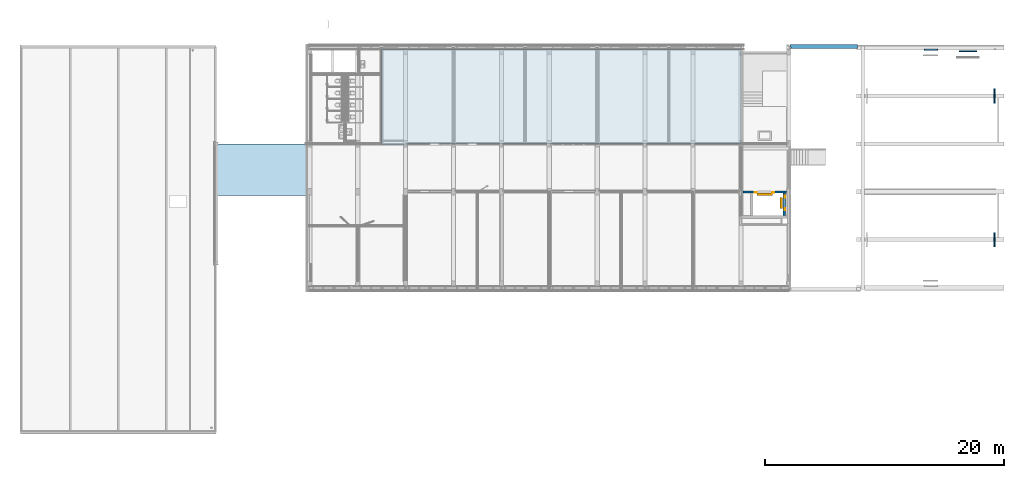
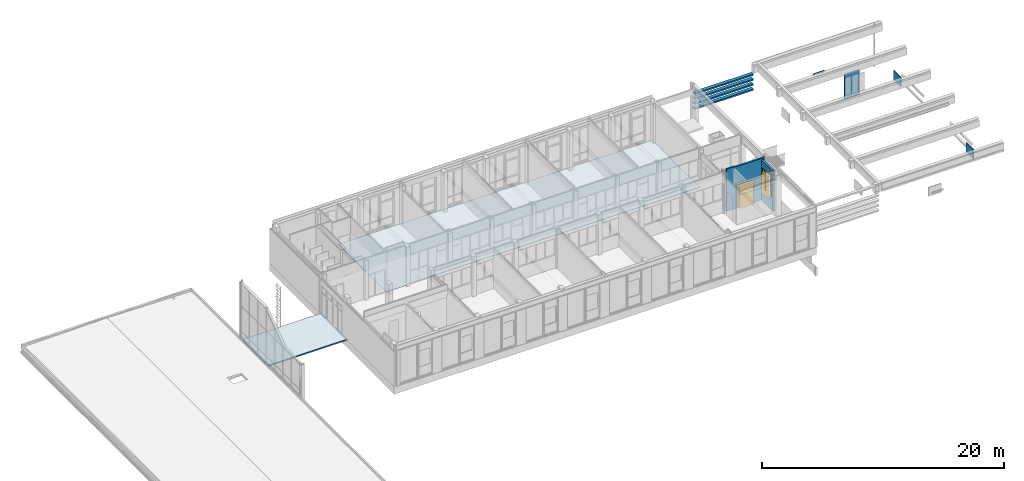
# One storey, part 1 of 54: 8 beams, 4 doors, 2 slabs, 2 walls, 4 openings.
"""IFC2X3 building model written with IfcOpenShell, lengths in millimetres."""

from ifc_helpers import new_model, entity, si_unit, converted_unit, derived_unit, money_unit, direction, frame, origin_with_axes, place, context, subcontext, project, spatial, faceted_brep, source, transform, mapped, material, type_object, type_shapes, element, fill, save


model = new_model("IFC2X3")

# Units and contexts
model_context = context("Model", 3, precision=0.01, world=origin_with_axes(), true_north=direction((0.0, 1.0)))
body_context = subcontext(model_context, "Body", "Model", "MODEL_VIEW")
ifc_project = project(units=[si_unit("LENGTHUNIT", "METRE", prefix="MILLI"), si_unit("AREAUNIT", "SQUARE_METRE"), si_unit("VOLUMEUNIT", "CUBIC_METRE"), converted_unit("PLANEANGLEUNIT", "DEGREE", entity("IfcPlaneAngleMeasure", 0.0174532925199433), si_unit("PLANEANGLEUNIT", "RADIAN"), dimensions=[0, 0, 0, 0, 0, 0, 0]), money_unit("EUR"), converted_unit("TIMEUNIT", "Year", entity("IfcTimeMeasure", 31557600.0), si_unit("TIMEUNIT", "SECOND"), dimensions=[0, 0, 1, 0, 0, 0, 0]), si_unit("MASSUNIT", "GRAM", prefix="KILO"), si_unit("THERMODYNAMICTEMPERATUREUNIT", "DEGREE_CELSIUS"), si_unit("LUMINOUSINTENSITYUNIT", "LUMEN"), si_unit("ENERGYUNIT", "JOULE", prefix="MEGA"), derived_unit("THERMALCONDUCTANCEUNIT", [(si_unit("POWERUNIT", "WATT"), 1), (si_unit("LENGTHUNIT", "METRE"), -1), (si_unit("THERMODYNAMICTEMPERATUREUNIT", "KELVIN"), -1)]), derived_unit("SPECIFICHEATCAPACITYUNIT", [(si_unit("ENERGYUNIT", "JOULE"), 1), (si_unit("MASSUNIT", "GRAM", prefix="KILO"), -1), (si_unit("THERMODYNAMICTEMPERATUREUNIT", "KELVIN"), -1)]), derived_unit("MASSDENSITYUNIT", [(si_unit("MASSUNIT", "GRAM", prefix="KILO"), 1), (si_unit("VOLUMEUNIT", "CUBIC_METRE"), -1)])], contexts=[model_context])

# Site, building, storey
site_placement = place(None, origin_with_axes())
site = spatial("IfcSite", under=ifc_project, at=site_placement, Name="<site naam>", CompositionType="ELEMENT")
building_placement = place(site_placement, origin_with_axes())
building = spatial("IfcBuilding", under=site, at=building_placement, Name="<Naam gebouw>", CompositionType="ELEMENT")
storey_placement = place(building_placement, frame((0.0, 0.0, 8500.0), z_axis=(0.0, 0.0, 1.0), x_axis=(1.0, 0.0, 0.0)))
storey = spatial("IfcBuildingStorey", under=building, at=storey_placement, Name="02 2e verdieping", CompositionType="ELEMENT", Elevation=8500.0)

# Beams
ifc_material_1 = material(Name="beton")
beam_type_1 = type_object("IfcBeamType", Name="beton 335 x 150", PredefinedType="BEAM")
for number, where, z_axis, x_axis, name in (
    (1, (52105.00000000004, 20324.99999758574, 2562.5), (0.0, 0.0, 1.0), (0.0, -1.0, 0.0), "41_Balk_beton"),
    (2, (52105.00000000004, 20324.99999758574, 3062.5), (0.0, 0.0, 1.0), (0.0, -1.0, 0.0), "41_Balk_beton"),
    (3, (52105.00000000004, 20324.99999758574, 2062.5), (0.0, 0.0, 1.0), (0.0, -1.0, 0.0), "41_Balk_beton"),
    (4, (52105.00000000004, 20324.99999758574, 1562.5), (0.0, 0.0, 1.0), (0.0, -1.0, 0.0), "41_Balk_beton"),
):
    element("IfcBeam", number, at=place(storey_placement, frame(where, z_axis=z_axis, x_axis=x_axis)), inside=storey, type_object=beam_type_1, material=ifc_material_1, Name=name, ObjectType="BEAM", context=body_context, shape_type="Brep", body=[
        faceted_brep([(217.325348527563, 70.00000000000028, 150.0000000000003), (325.0000821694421, 70.00000000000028, 150.0000000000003), (325.0000821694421, 0.0, 150.0000000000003), (335.0000000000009, 0.0, 150.0000000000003), (335.0000000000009, 5640.499069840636, 150.0000000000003), (0.0, 5640.499069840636, 150.0000000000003), (0.0, 0.0, 150.0000000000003), (217.325348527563, 0.0, 150.0000000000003), (325.0000821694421, 70.00000000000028, 0.0), (217.325348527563, 70.00000000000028, 0.0), (325.0000821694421, 0.0, 0.0), (335.0000000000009, 0.0, 0.0), (335.0000000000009, 5640.499069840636, 0.0), (0.0, 5640.499069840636, 0.0), (0.0, 0.0, 0.0), (217.325348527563, 0.0, 0.0)], [[[0, 1, 2, 3, 4, 5, 6, 7]], [[8, 1, 0, 9]], [[10, 2, 1, 8]], [[3, 2, 10, 11]], [[3, 11, 12, 4]], [[4, 12, 13, 5]], [[14, 6, 5, 13]], [[14, 15, 7, 6]], [[9, 0, 7, 15]], [[8, 9, 15, 14, 13, 12, 11, 10]]]),
    ])
ifc_material_2 = material(Name="ALG - ALGEMEEN")
beam_type_2 = type_object("IfcBeamType", Name="ALG - ALGEMEEN 100 x 900", PredefinedType="BEAM")
for number, where, z_axis, x_axis, name in (
    (5, (69225.00005570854, 15399.99999999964, 1649.99978842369), (0.0, 0.0, 1.0), (1.0, 0.0, 0.0), "77_Balk_ALG"),
    (6, (69225.00005365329, 3400.01755167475, 1649.999788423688), (0.0, 0.0, 1.0), (1.0, 0.0, 0.0), "77_Balk_ALG"),
):
    element("IfcBeam", number, at=place(storey_placement, frame(where, z_axis=z_axis, x_axis=x_axis)), inside=storey, type_object=beam_type_2, material=ifc_material_2, Name=name, ObjectType="BEAM", context=body_context, shape_type="Brep", body=[
        faceted_brep([(0.0, 0.0, 0.0), (0.0, 1200.000000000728, 0.0), (-100.0000020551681, 1200.000000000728, 0.0), (-100.0000020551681, 0.0, 0.0), (0.0, 0.0, -899.9995791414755), (0.0, 1200.000000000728, -899.9995791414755), (-100.0000020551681, 1200.000000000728, -899.9995791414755), (-100.0000020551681, 0.0, -899.9995791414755)], [[[0, 1, 2, 3]], [[4, 5, 1, 0]], [[2, 1, 5, 6]], [[3, 2, 6, 7]], [[4, 0, 3, 7]], [[7, 6, 5, 4]]]),
    ])
ifc_material_3 = material(Name="staal")
beam_type_3 = type_object("IfcBeamType", Name="Profiel UPN algemeen 70 x 180", PredefinedType="BEAM")
beam_1_placement = place(storey_placement, frame((63313.25000000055, 19829.99963413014, 1351.998526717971), z_axis=(0.0, 0.0, 1.0), x_axis=(0.0, -1.0, 0.0)))
element("IfcBeam", 7, at=beam_1_placement, inside=storey, type_object=beam_type_3, material=ifc_material_3, Name="28_Balk_Profiel", ObjectType="BEAM", context=body_context, shape_type="Brep", body=[
    faceted_brep([(-7.999999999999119, 0.0, -10.99999999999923), (-70.00032444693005, 0.0, -10.99999999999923), (-70.00032444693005, 1113.499999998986, -10.99999999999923), (-7.999999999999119, 1113.499999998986, -10.99999999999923), (0.0, 0.0, 0.0), (-70.00040555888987, 0.0, 0.0), (-7.999999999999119, 0.0, -169.0000143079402), (-70.00032444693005, 0.0, -169.0000143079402), (-70.00040555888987, 0.0, -180.0000145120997), (0.0, 0.0, -180.0000145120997), (-70.00040555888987, 1113.499999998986, 0.0), (-7.999999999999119, 1113.499999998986, -169.0000143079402), (0.0, 1113.499999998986, 0.0), (0.0, 1113.499999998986, -180.0000145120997), (-70.00040555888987, 1113.499999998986, -180.0000145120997), (-70.00032444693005, 1113.499999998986, -169.0000143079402)], [[[0, 1, 2, 3]], [[4, 5, 1, 0, 6, 7, 8, 9]], [[1, 5, 10, 2]], [[11, 3, 2, 10, 12, 13, 14, 15]], [[6, 0, 3, 11]], [[5, 4, 12, 10]], [[7, 6, 11, 15]], [[8, 7, 15, 14]], [[9, 8, 14, 13]], [[4, 9, 13, 12]]]),
])
beam_type_4 = type_object("IfcBeamType", Name="ALG - ALGEMEEN 100 x 2518", PredefinedType="BEAM")
beam_2_placement = place(storey_placement, frame((66241.21701635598, 19729.99223175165, 362.5000000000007), z_axis=(0.0, 0.0, 1.0), x_axis=(0.0, -1.0, 0.0)))
element("IfcBeam", 8, at=beam_2_placement, inside=storey, type_object=beam_type_4, material=ifc_material_2, Name="77_Balk_ALG", ObjectType="BEAM", context=body_context, shape_type="Brep", body=[
    faceted_brep([(50.00000102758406, 1449.999999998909, 0.0), (50.00000102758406, 1449.999999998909, -2514.500000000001), (-50.00000102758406, 1449.999999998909, -2514.500000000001), (-50.00000102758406, 1449.999999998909, 0.0), (50.00000102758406, 0.0, 0.0), (50.00000102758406, 0.0, -2514.500000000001), (-50.00000102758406, 0.0, -2514.500000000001), (-50.00000102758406, 0.0, 0.0)], [[[0, 1, 2, 3]], [[4, 5, 1, 0]], [[5, 6, 2, 1]], [[3, 2, 6, 7]], [[7, 4, 0, 3]], [[7, 6, 5, 4]]]),
])

# Slabs
ifc_material_4 = material(Name="beton_gewapend_vloer C")
slab_type_1 = type_object("IfcSlabType", Name="beton_gewapend_vloer C  120", PredefinedType="NOTDEFINED")
slab_1_placement = place(storey_placement, frame((4270.04446815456, 7680.000000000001, -30.00000000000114), z_axis=(0.0, 0.0, 1.0), x_axis=(1.0, 0.0, 0.0)))
element("IfcSlab", 9, at=slab_1_placement, inside=storey, type_object=slab_type_1, material=ifc_material_4, Name="23_Vloer_beton_gewapend_vloer", PredefinedType="NOTDEFINED", context=body_context, shape_type="Brep", body=[
    faceted_brep([(0.0, 0.0, 0.0), (0.0, 0.0, -119.9999999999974), (7554.955531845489, 0.0, -119.9999999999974), (7554.955531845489, 0.0, 0.0), (0.0, 4320.000000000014, 0.0), (0.0, 4320.000000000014, -119.9999999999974), (7554.955531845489, 4320.000000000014, -119.9999999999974), (7554.955531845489, 4320.000000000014, 0.0)], [[[0, 1, 2, 3]], [[4, 5, 1, 0]], [[2, 1, 5, 6]], [[3, 2, 6, 7]], [[4, 0, 3, 7]], [[7, 6, 5, 4]]]),
])
ifc_material_5 = material(Name="Zwevende dekvloer")
slab_type_2 = type_object("IfcSlabType", Name="Zwevende dekvloer 30", PredefinedType="NOTDEFINED")
slab_2_placement = place(storey_placement, frame((18000.10069231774, 19925.00000000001, 0.0), z_axis=(0.0, 0.0, 1.0), x_axis=(1.0, 0.0, 0.0)))
element("IfcSlab", 10, at=slab_2_placement, inside=storey, type_object=slab_type_2, material=ifc_material_5, Name="23_Vloer_Zwevende", PredefinedType="NOTDEFINED", context=body_context, shape_type="Brep", body=[
    faceted_brep([(30014.97715142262, -7896.000000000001, -29.99999999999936), (30014.97715142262, -34.4999999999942, -29.99999999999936), (30014.97715142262, -34.4999999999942, 0.0), (30014.97715142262, -7896.000000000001, 0.0), (0.0, -7995.463496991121, -29.99999999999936), (0.0, -34.4999999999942, -29.99999999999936), (1999.899307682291, -7896.000000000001, -29.99999999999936), (1999.899307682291, -7995.463496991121, -29.99999999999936), (0.0, -34.4999999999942, 0.0), (0.0, -7995.463496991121, 0.0), (1999.899307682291, -7995.463496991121, 0.0), (1999.899307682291, -7896.000000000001, 0.0)], [[[0, 1, 2, 3]], [[4, 5, 1, 0, 6, 7]], [[5, 8, 2, 1]], [[3, 2, 8, 9, 10, 11]], [[3, 11, 6, 0]], [[9, 8, 5, 4]], [[11, 10, 7, 6]], [[10, 9, 4, 7]]]),
])

# Wall, openings, doors
ifc_material_6 = material(Name="kalkzandsteen")
wall_type_1 = type_object("IfcWallType", Name="kalkzandsteen 150", PredefinedType="NOTDEFINED")
wall_1_placement = place(storey_placement, frame((51825.00000000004, 7904.999998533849, 0.0), z_axis=(0.0, 0.0, 1.0), x_axis=(-1.0, 0.0, 0.0)))
wall_1 = element("IfcWall", 11, at=wall_1_placement, inside=storey, type_object=wall_type_1, material=ifc_material_6, Name="22_Binnenwand_kalkzandsteen", context=body_context, shape_type="Brep", body=[
    faceted_brep([(2824.999999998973, -150.0000000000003, 4270.0), (2824.999999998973, -150.0000000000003, 4199.999999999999), (10.9999999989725, -150.0000000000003, 4199.999999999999), (10.9999999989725, -150.0000000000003, 4270.0), (0.0, -150.0000000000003, 4270.0), (0.0, -150.0000000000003, 0.0), (3650.000000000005, -150.0000000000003, 0.0), (3650.000000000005, -150.0000000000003, 4270.0), (2824.999999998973, 0.0, 4199.999999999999), (2824.999999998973, 0.0, 4270.0), (10.9999999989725, 0.0, 4199.999999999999), (10.9999999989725, 0.0, 4270.0), (0.0, 0.0, 4270.0), (0.0, 0.0, 0.0), (3650.000000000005, 0.0, 0.0), (3650.000000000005, 0.0, 4270.0)], [[[0, 1, 2, 3, 4, 5, 6, 7]], [[8, 1, 0, 9]], [[10, 2, 1, 8]], [[10, 11, 3, 2]], [[4, 3, 11, 12]], [[4, 12, 13, 5]], [[5, 13, 14, 6]], [[7, 6, 14, 15]], [[15, 9, 0, 7]], [[10, 8, 9, 15, 14, 13, 12, 11]]]),
])
opening_1_placement = place(wall_1_placement, frame((1844.999999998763, 0.0, 0.0), z_axis=(0.0, 0.0, 1.0), x_axis=(1.0, 0.0, 0.0)))
opening_1 = element("IfcOpeningElement", 12, at=opening_1_placement, cuts=wall_1, Name="22_liftdeur_305", context=body_context, shape_type="Brep", body=[
    faceted_brep([(649.9999999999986, 1.000000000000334, 2100.0), (649.9999999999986, 1.000000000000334, 0.0), (-649.9999999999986, 1.000000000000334, 0.0), (-649.9999999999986, 1.000000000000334, 2100.0), (649.9999999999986, -150.9999999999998, 2100.0), (649.9999999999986, -150.9999999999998, 0.0), (-649.9999999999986, -150.9999999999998, 0.0), (-649.9999999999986, -150.9999999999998, 2100.0)], [[[0, 1, 2, 3]], [[4, 5, 1, 0]], [[5, 6, 2, 1]], [[6, 7, 3, 2]], [[7, 4, 0, 3]], [[6, 5, 4, 7]]]),
])
opening_2_placement = place(wall_1_placement, frame((1844.999999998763, 0.0, 0.0), z_axis=(0.0, 0.0, 1.0), x_axis=(1.0, 0.0, 0.0)))
opening_2 = element("IfcOpeningElement", 13, at=opening_2_placement, cuts=wall_1, Name="22__305", context=body_context, shape_type="Brep", body=[
    faceted_brep([(-799.9999999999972, -150.9999999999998, 2300.000000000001), (-799.9999999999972, -150.9999999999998, 0.0), (799.9999999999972, -150.9999999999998, 0.0), (799.9999999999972, -150.9999999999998, 2300.000000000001), (-799.9999999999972, 1.000000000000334, 2300.000000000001), (-799.9999999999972, 1.000000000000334, 0.0), (799.9999999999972, 1.000000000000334, 0.0), (799.9999999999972, 1.000000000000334, 2300.000000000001)], [[[0, 1, 2, 3]], [[4, 5, 1, 0]], [[5, 6, 2, 1]], [[6, 7, 3, 2]], [[7, 4, 0, 3]], [[6, 5, 4, 7]]]),
])
door_style_1 = type_object("IfcDoorStyle", Name="DS1 voor wand 27", ConstructionType="NOTDEFINED", OperationType="SLIDING_TO_LEFT", ParameterTakesPrecedence=False, Sizeable=False)
shared_shape_1 = source(origin_with_axes(), body_context, "Body", "Brep", [
    faceted_brep([(-650.0, 365.0, 0.0), (650.0, 365.0, 0.0), (650.0, 155.0, 0.0), (-650.0, 155.0, 0.0), (-650.0, 364.9999999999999, 2100.0), (650.0, 364.9999999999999, 2100.0), (650.0, 154.9999999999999, 2100.0), (-650.0, 154.9999999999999, 2100.0)], [[[0, 1, 2, 3]], [[0, 4, 5, 1]], [[1, 5, 6, 2]], [[3, 2, 6, 7]], [[4, 0, 3, 7]], [[5, 4, 7, 6]]]),
])
door_1_placement = place(opening_1_placement, frame((-649.9999999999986, 0.0, 0.0), z_axis=(0.0, 0.0, 1.0), x_axis=(1.0, 0.0, 0.0)))
door_1 = element("IfcDoor", 14, at=door_1_placement, inside=storey, type_object=door_style_1, Name="22_liftdeur_305", ObjectType="DOOR", OverallHeight=2100.0, OverallWidth=1300.0, context=body_context, shape_type="MappedRepresentation", body=[
    mapped(shared_shape_1, transform((649.9999999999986, -150.0000000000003, 0.0))),
])
fill(opening_1, door_1)
door_style_2 = type_object("IfcDoorStyle", Name="D1 27", ConstructionType="NOTDEFINED", OperationType="NOTDEFINED", ParameterTakesPrecedence=False, Sizeable=False)
shared_shape_2 = source(origin_with_axes(), body_context, "Body", "Brep", [
    faceted_brep([(799.9999999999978, 0.0, 0.0), (799.9999999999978, -60.0, 0.0), (649.9999999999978, -60.0, 0.0), (649.9999999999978, 0.0, 0.0), (799.9999999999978, 0.0, 2100.0), (799.9999999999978, -60.0, 2100.0), (649.9999999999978, -60.0, 2100.0), (649.9999999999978, 0.0, 2100.0)], [[[0, 1, 2, 3]], [[4, 5, 1, 0]], [[1, 5, 6, 2]], [[3, 2, 6, 7]], [[0, 3, 7, 4]], [[7, 6, 5, 4]]]),
    faceted_brep([(-799.9999999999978, 0.0, 0.0), (-799.9999999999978, -60.0, 0.0), (-799.9999999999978, -60.0, 2100.0), (-799.9999999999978, 0.0, 2100.0), (-649.9999999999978, 0.0, 0.0), (-649.9999999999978, -60.0, 0.0), (-649.9999999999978, -60.0, 2100.0), (-649.9999999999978, 0.0, 2100.0)], [[[0, 1, 2, 3]], [[4, 5, 1, 0]], [[1, 5, 6, 2]], [[3, 2, 6, 7]], [[0, 3, 7, 4]], [[7, 6, 5, 4]]]),
    faceted_brep([(799.9999999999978, 0.0, 2300.0), (799.9999999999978, -60.0, 2300.0), (799.9999999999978, -60.0, 2100.0), (799.9999999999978, 0.0, 2100.0), (-799.9999999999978, 0.0, 2300.0), (-799.9999999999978, -60.0, 2300.0), (-799.9999999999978, -60.0, 2100.0), (-649.9999999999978, -60.0, 2100.0), (649.9999999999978, -60.0, 2100.0), (649.9999999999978, 0.0, 2100.0), (-649.9999999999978, 0.0, 2100.0), (-799.9999999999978, 0.0, 2100.0)], [[[0, 1, 2, 3]], [[4, 5, 1, 0]], [[1, 5, 6, 7, 8, 2]], [[3, 2, 8, 9]], [[0, 3, 9, 10, 11, 4]], [[11, 6, 5, 4]], [[10, 7, 6, 11]], [[9, 8, 7, 10]]]),
])
door_2_placement = place(opening_2_placement, frame((-649.9999999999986, 0.0, 0.0), z_axis=(0.0, 0.0, 1.0), x_axis=(1.0, 0.0, 0.0)))
door_2 = element("IfcDoor", 15, at=door_2_placement, inside=storey, type_object=door_style_2, Name="22__305", ObjectType="DOOR", OverallHeight=2300.0, OverallWidth=1600.0, context=body_context, shape_type="MappedRepresentation", body=[
    mapped(shared_shape_2, transform((649.9999999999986, 0.0, 0.0))),
])
fill(opening_2, door_2)

wall_type_2 = type_object("IfcWallType", Name="kalkzandsteen 214", PredefinedType="NOTDEFINED")
wall_2_placement = place(storey_placement, frame((51500.00000000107, 6004.99999853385, 0.0), z_axis=(0.0, 0.0, 1.0), x_axis=(0.0, 1.0, 0.0)))
wall_2 = element("IfcWall", 16, at=wall_2_placement, inside=storey, type_object=wall_type_2, material=ifc_material_6, Name="22_Binnenwand_kalkzandsteen", context=body_context, shape_type="Brep", body=[
    faceted_brep([(1670.000001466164, -213.9999999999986, 1066.000000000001), (1670.000001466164, 0.0, 1066.000000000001), (1670.000001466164, 0.0, 913.0000000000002), (1670.000001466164, -213.9999999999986, 913.0000000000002), (473.6916748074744, -213.9999999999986, 1066.000000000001), (473.6916748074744, 0.0, 1066.000000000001), (0.0, 0.0, 4049.999999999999), (1900.0, 0.0, 4049.999999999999), (1900.0, 0.0, 0.0), (0.0, 0.0, 0.0), (470.0000014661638, 0.0, 913.0000000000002), (473.6916748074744, 0.0, 1063.000000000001), (470.0000014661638, 0.0, 1063.000000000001), (470.0000014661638, -213.9999999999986, 913.0000000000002), (0.0, -213.9999999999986, 0.0), (1900.0, -213.9999999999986, 0.0), (1900.0, -213.9999999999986, 4049.999999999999), (0.0, -213.9999999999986, 4049.999999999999), (470.0000014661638, -213.9999999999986, 1063.000000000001), (473.6916748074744, -213.9999999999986, 1063.000000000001)], [[[0, 1, 2, 3]], [[1, 0, 4, 5]], [[6, 7, 8, 9], [10, 2, 1, 5, 11, 12]], [[10, 13, 3, 2]], [[14, 15, 16, 17], [13, 18, 19, 4, 0, 3]], [[4, 19, 11, 5]], [[17, 16, 7, 6]], [[16, 15, 8, 7]], [[9, 8, 15, 14]], [[17, 6, 9, 14]], [[12, 11, 19, 18]], [[12, 18, 13, 10]]]),
])
opening_3_placement = place(wall_2_placement, frame((1070.000001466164, 0.0, 1063.000000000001), z_axis=(0.0, 0.0, 1.0), x_axis=(1.0, 0.0, 0.0)))
opening_3 = element("IfcOpeningElement", 17, at=opening_3_placement, cuts=wall_2, Name="22_liftdeur_305", context=body_context, shape_type="Brep", body=[
    faceted_brep([(450.0000000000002, 0.9999999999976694, 2100.0), (450.0000000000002, 0.9999999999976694, 0.0), (-450.0000000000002, 0.9999999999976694, 0.0), (-450.0000000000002, 0.9999999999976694, 2100.0), (450.0000000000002, -214.9999999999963, 2100.0), (450.0000000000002, -214.9999999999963, 0.0), (-450.0000000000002, -214.9999999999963, 0.0), (-450.0000000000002, -214.9999999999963, 2100.0)], [[[0, 1, 2, 3]], [[4, 5, 1, 0]], [[5, 6, 2, 1]], [[6, 7, 3, 2]], [[7, 4, 0, 3]], [[6, 5, 4, 7]]]),
])
opening_4_placement = place(wall_2_placement, frame((1070.000001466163, 0.0, 1063.000000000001), z_axis=(0.0, 0.0, 1.0), x_axis=(1.0, 0.0, 0.0)))
opening_4 = element("IfcOpeningElement", 18, at=opening_4_placement, cuts=wall_2, Name="22__305", context=body_context, shape_type="Brep", body=[
    faceted_brep([(599.9999999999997, 0.9999999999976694, 2300.000000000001), (599.9999999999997, 0.9999999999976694, 0.0), (-599.9999999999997, 0.9999999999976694, 0.0), (-599.9999999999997, 0.9999999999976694, 2300.000000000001), (599.9999999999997, -214.9999999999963, 2300.000000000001), (599.9999999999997, -214.9999999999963, 0.0), (-599.9999999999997, -214.9999999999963, 0.0), (-599.9999999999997, -214.9999999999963, 2300.000000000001)], [[[0, 1, 2, 3]], [[4, 5, 1, 0]], [[5, 6, 2, 1]], [[6, 7, 3, 2]], [[7, 4, 0, 3]], [[6, 5, 4, 7]]]),
])
shared_shape_3 = source(origin_with_axes(), body_context, "Body", "Brep", [
    faceted_brep([(-449.9999999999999, 429.0, 0.0), (450.0000000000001, 429.0, 0.0), (450.0000000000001, 219.0, 0.0), (-449.9999999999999, 219.0, 0.0), (-449.9999999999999, 428.9999999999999, 2100.0), (450.0000000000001, 428.9999999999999, 2100.0), (450.0000000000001, 218.9999999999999, 2100.0), (-449.9999999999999, 218.9999999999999, 2100.0)], [[[0, 1, 2, 3]], [[0, 4, 5, 1]], [[1, 5, 6, 2]], [[3, 2, 6, 7]], [[4, 0, 3, 7]], [[5, 4, 7, 6]]]),
])
type_shapes(door_style_1, [shared_shape_1, shared_shape_3])
door_3_placement = place(opening_3_placement, frame((-450.0000000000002, 0.0, 0.0), z_axis=(0.0, 0.0, 1.0), x_axis=(1.0, 0.0, 0.0)))
door_3 = element("IfcDoor", 19, at=door_3_placement, inside=storey, type_object=door_style_1, Name="22_liftdeur_305", ObjectType="DOOR", OverallHeight=2100.0, OverallWidth=900.0, context=body_context, shape_type="MappedRepresentation", body=[
    mapped(shared_shape_3, transform((450.0000000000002, -213.9999999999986, 0.0))),
])
fill(opening_3, door_3)
shared_shape_4 = source(origin_with_axes(), body_context, "Body", "Brep", [
    faceted_brep([(600.0, 0.0, 0.0), (600.0, -60.0, 0.0), (449.9999999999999, -60.0, 0.0), (449.9999999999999, 0.0, 0.0), (600.0, 0.0, 2100.0), (600.0, -60.0, 2100.0), (449.9999999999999, -60.0, 2100.0), (449.9999999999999, 0.0, 2100.0)], [[[0, 1, 2, 3]], [[4, 5, 1, 0]], [[1, 5, 6, 2]], [[3, 2, 6, 7]], [[0, 3, 7, 4]], [[7, 6, 5, 4]]]),
    faceted_brep([(-600.0, 0.0, 0.0), (-600.0, -60.0, 0.0), (-600.0, -60.0, 2100.0), (-600.0, 0.0, 2100.0), (-449.9999999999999, 0.0, 0.0), (-449.9999999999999, -60.0, 0.0), (-449.9999999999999, -60.0, 2100.0), (-449.9999999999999, 0.0, 2100.0)], [[[0, 1, 2, 3]], [[4, 5, 1, 0]], [[1, 5, 6, 2]], [[3, 2, 6, 7]], [[0, 3, 7, 4]], [[7, 6, 5, 4]]]),
    faceted_brep([(600.0, 0.0, 2300.0), (600.0, -60.0, 2300.0), (600.0, -60.0, 2100.0), (600.0, 0.0, 2100.0), (-600.0, 0.0, 2300.0), (-600.0, -60.0, 2300.0), (-600.0, -60.0, 2100.0), (-449.9999999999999, -60.0, 2100.0), (449.9999999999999, -60.0, 2100.0), (449.9999999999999, 0.0, 2100.0), (-449.9999999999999, 0.0, 2100.0), (-600.0, 0.0, 2100.0)], [[[0, 1, 2, 3]], [[4, 5, 1, 0]], [[1, 5, 6, 7, 8, 2]], [[3, 2, 8, 9]], [[0, 3, 9, 10, 11, 4]], [[11, 6, 5, 4]], [[10, 7, 6, 11]], [[9, 8, 7, 10]]]),
])
type_shapes(door_style_2, [shared_shape_2, shared_shape_4])
door_4_placement = place(opening_4_placement, frame((-450.0000000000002, 0.0, 0.0), z_axis=(0.0, 0.0, 1.0), x_axis=(1.0, 0.0, 0.0)))
door_4 = element("IfcDoor", 20, at=door_4_placement, inside=storey, type_object=door_style_2, Name="22__305", ObjectType="DOOR", OverallHeight=2300.0, OverallWidth=1200.0, context=body_context, shape_type="MappedRepresentation", body=[
    mapped(shared_shape_4, transform((450.0000000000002, -153.9999999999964, 0.0))),
])
fill(opening_4, door_4)

save(model, "model.ifc")
